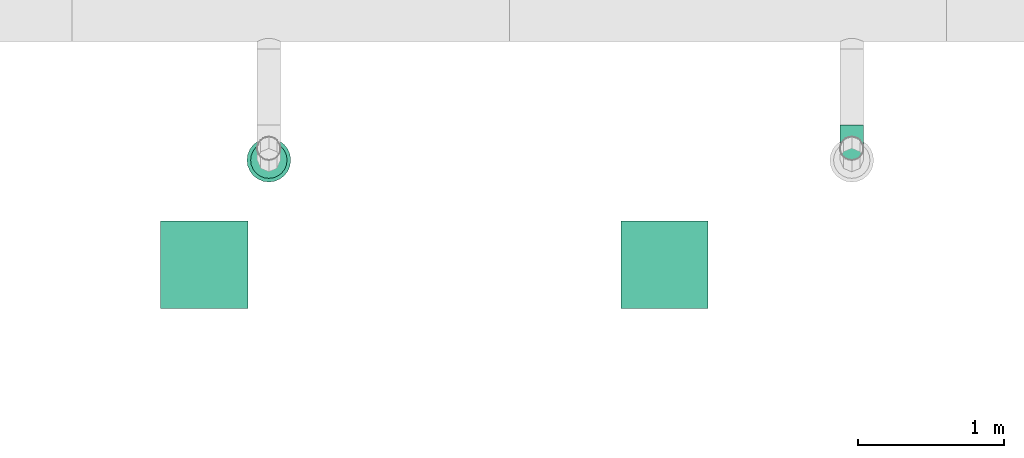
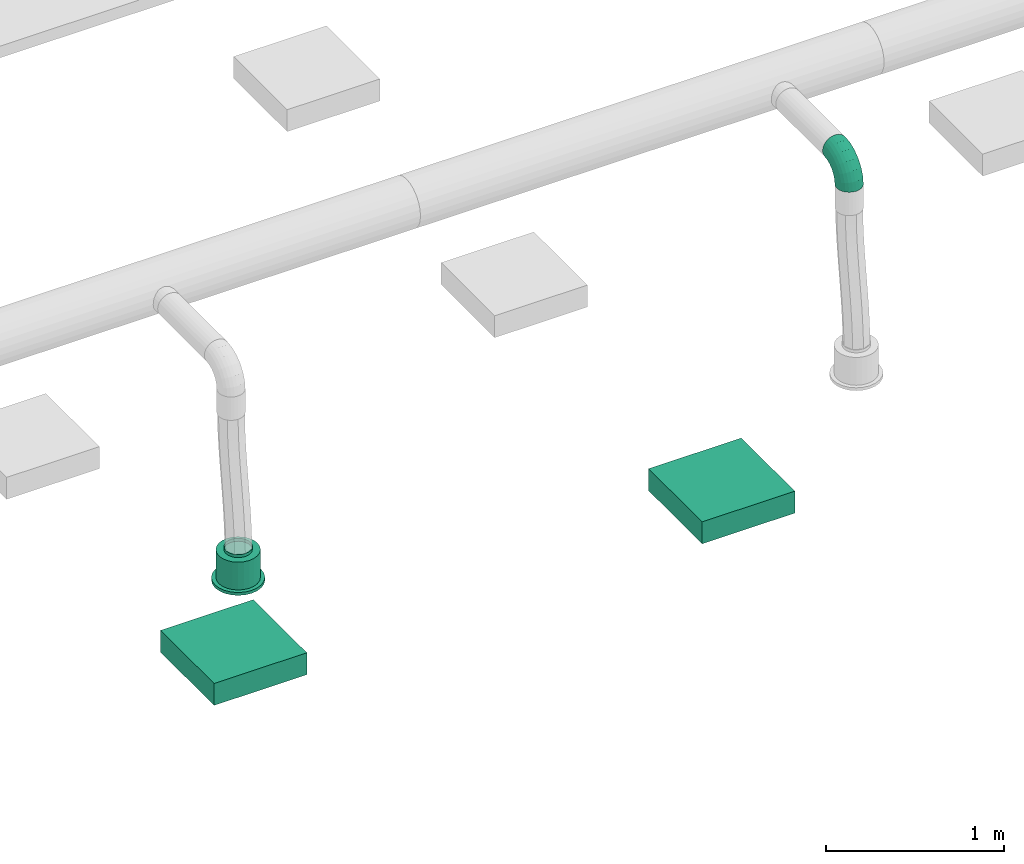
# One storey, part 22 of 374: 2 distribution elements, 1 flow fitting, 1 flow terminal.
"""IFC2X3 building model written with IfcOpenShell, lengths in metres."""

from ifc_helpers import new_model, si_unit, direction, frame, frame_2d, origin, place, context, subcontext, project, spatial, rectangle, extrude, open_shell, surface_model, source, transform, mapped, element, save


model = new_model("IFC2X3")

# Units and contexts
model_context = context("Model", 3, precision=1e-05, world=origin(), true_north=direction((-0.4480736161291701, 0.8939966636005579)))
body_context = subcontext(model_context, "Body", "Model", "MODEL_VIEW")
ifc_project = project(units=[si_unit("LENGTHUNIT", "METRE"), si_unit("AREAUNIT", "SQUARE_METRE"), si_unit("VOLUMEUNIT", "CUBIC_METRE"), si_unit("PLANEANGLEUNIT", "RADIAN"), si_unit("THERMODYNAMICTEMPERATUREUNIT", "KELVIN"), si_unit("MASSUNIT", "GRAM", prefix="KILO"), si_unit("TIMEUNIT", "SECOND")], contexts=[model_context])

# Site, building, storey
site_placement = place(None, origin())
site = spatial("IfcSite", under=ifc_project, at=site_placement, Name="Site 1", CompositionType="ELEMENT")
building_placement = place(site_placement, origin())
building = spatial("IfcBuilding", under=site, at=building_placement, Name="Undefined", CompositionType="ELEMENT")
storey_placement = place(building_placement, origin())
storey = spatial("IfcBuildingStorey", under=building, at=storey_placement, Name="Rez de chauss\x8ee", CompositionType="ELEMENT", Elevation=0.0)

# Flow terminal
shared_shape_1 = source(origin(), body_context, "Body", "SurfaceModel", [
    surface_model("IfcFaceBasedSurfaceModel", [(0.0, 0.0, 0.0), (0.03915785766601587, 0.0, 0.0), (0.03915785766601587, 0.020000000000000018, 0.0), (3.552713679e-15, 0.020000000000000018, 0.0), (0.07698144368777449, 0.0, -0.010134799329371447), (0.07698144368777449, 0.020000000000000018, -0.010134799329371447), (0.11089314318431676, 0.0, -0.02971372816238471), (0.11089314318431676, 0.020000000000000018, -0.02971372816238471), (0.13858192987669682, 0.0, -0.05740251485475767), (0.13858192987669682, 0.020000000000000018, -0.05740251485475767), (0.15816085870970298, 0.0, -0.09131421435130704), (0.15816085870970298, 0.020000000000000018, -0.09131421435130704), (0.16829565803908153, 0.0, -0.12913780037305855), (0.16829565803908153, 0.020000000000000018, -0.12913780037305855), (0.16829565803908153, 0.0, -0.16829565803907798), (0.16829565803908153, 0.020000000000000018, -0.16829565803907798), (0.15816085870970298, 0.0, -0.20611924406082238), (0.15816085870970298, 0.020000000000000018, -0.20611924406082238), (0.13858192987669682, 0.0, -0.24003094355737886), (0.13858192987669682, 0.020000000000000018, -0.24003094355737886), (0.11089314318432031, 0.0, -0.2677197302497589), (0.11089314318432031, 0.020000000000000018, -0.2677197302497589), (0.07698144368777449, 0.0, -0.2872986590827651), (0.07698144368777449, 0.020000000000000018, -0.2872986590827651), (0.039157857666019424, 0.0, -0.29743345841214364), (0.039157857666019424, 0.020000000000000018, -0.29743345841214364), (3.552713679e-15, 0.0, -0.29743345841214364), (3.552713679e-15, 0.020000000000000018, -0.29743345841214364), (-0.03782358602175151, 0.0, -0.2872986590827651), (-0.03782358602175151, 0.020000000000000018, -0.2872986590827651), (-0.07173528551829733, 0.0, -0.2677197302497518), (-0.07173528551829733, 0.020000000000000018, -0.2677197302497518), (-0.0994240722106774, 0.0, -0.24003094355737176), (-0.0994240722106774, 0.020000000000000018, -0.24003094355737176), (-0.11900300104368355, 0.0, -0.2061192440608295), (-0.11900300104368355, 0.020000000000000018, -0.2061192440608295), (-0.1291378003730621, 0.0, -0.16829565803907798), (-0.1291378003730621, 0.020000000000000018, -0.16829565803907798), (-0.1291378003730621, 0.0, -0.12913780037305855), (-0.1291378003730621, 0.020000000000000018, -0.12913780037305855), (-0.11900300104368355, 0.0, -0.09131421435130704), (-0.11900300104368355, 0.020000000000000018, -0.09131421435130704), (-0.0994240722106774, 0.0, -0.05740251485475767), (-0.0994240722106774, 0.020000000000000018, -0.05740251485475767), (-0.07173528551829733, 0.0, -0.029713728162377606), (-0.07173528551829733, 0.020000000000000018, -0.029713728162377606), (-0.03782358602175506, 0.0, -0.010134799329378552), (-0.03782358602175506, 0.020000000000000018, -0.010134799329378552), (0.019578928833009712, 0.0, -0.14871672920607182), (0.019578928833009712, 0.020000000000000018, -0.14871672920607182), (0.003263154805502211, 0.020000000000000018, -0.02478612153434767), (0.035894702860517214, 0.020000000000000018, -0.02478612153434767), (0.035894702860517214, 0.20999999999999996, -0.02478612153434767), (0.003263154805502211, 0.20999999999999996, -0.02478612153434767), (0.06741435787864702, 0.020000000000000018, -0.033231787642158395), (0.06741435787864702, 0.20999999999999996, -0.033231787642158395), (0.0956741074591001, 0.020000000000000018, -0.04954756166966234), (0.0956741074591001, 0.20999999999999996, -0.04954756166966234), (0.11874809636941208, 0.020000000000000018, -0.07262155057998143), (0.11874809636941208, 0.20999999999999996, -0.07262155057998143), (0.13506387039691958, 0.020000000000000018, -0.10088130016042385), (0.13506387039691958, 0.20999999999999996, -0.10088130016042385), (0.1435095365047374, 0.020000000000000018, -0.13240095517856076), (0.1435095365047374, 0.20999999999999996, -0.13240095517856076), (0.1435095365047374, 0.020000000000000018, -0.16503250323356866), (0.1435095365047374, 0.20999999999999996, -0.16503250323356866), (0.13506387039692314, 0.020000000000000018, -0.19655215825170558), (0.13506387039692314, 0.20999999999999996, -0.19655215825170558), (0.11874809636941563, 0.020000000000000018, -0.2248119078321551), (0.11874809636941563, 0.20999999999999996, -0.2248119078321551), (0.09567410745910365, 0.020000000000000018, -0.24788589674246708), (0.09567410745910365, 0.20999999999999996, -0.24788589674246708), (0.06741435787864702, 0.020000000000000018, -0.26420167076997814), (0.06741435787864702, 0.20999999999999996, -0.26420167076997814), (0.035894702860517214, 0.020000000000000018, -0.27264733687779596), (0.035894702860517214, 0.20999999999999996, -0.27264733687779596), (0.0032631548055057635, 0.020000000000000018, -0.27264733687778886), (0.0032631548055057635, 0.20999999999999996, -0.27264733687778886), (-0.028256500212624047, 0.020000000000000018, -0.26420167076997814), (-0.028256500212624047, 0.20999999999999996, -0.26420167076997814), (-0.05651624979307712, 0.020000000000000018, -0.2478858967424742), (-0.05651624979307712, 0.20999999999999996, -0.2478858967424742), (-0.07959023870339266, 0.020000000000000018, -0.2248119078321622), (-0.07959023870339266, 0.20999999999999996, -0.2248119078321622), (-0.09590601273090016, 0.020000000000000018, -0.19655215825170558), (-0.09590601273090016, 0.20999999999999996, -0.19655215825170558), (-0.10435167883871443, 0.020000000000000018, -0.16503250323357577), (-0.10435167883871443, 0.20999999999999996, -0.16503250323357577), (-0.10435167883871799, 0.020000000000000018, -0.13240095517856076), (-0.10435167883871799, 0.20999999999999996, -0.13240095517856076), (-0.09590601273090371, 0.020000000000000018, -0.10088130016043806), (-0.09590601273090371, 0.20999999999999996, -0.10088130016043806), (-0.07959023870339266, 0.020000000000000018, -0.07262155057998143), (-0.07959023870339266, 0.20999999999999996, -0.07262155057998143), (-0.056516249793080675, 0.020000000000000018, -0.04954756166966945), (-0.056516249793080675, 0.20999999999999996, -0.04954756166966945), (-0.028256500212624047, 0.020000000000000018, -0.033231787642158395), (-0.028256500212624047, 0.20999999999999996, -0.033231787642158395), (0.019578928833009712, 0.20999999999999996, -0.14871672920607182), (0.009136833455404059, 0.20999999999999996, -0.06940114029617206), (0.030021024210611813, 0.20999999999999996, -0.06940114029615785), (0.030021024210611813, 0.22999999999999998, -0.06940114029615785), (0.009136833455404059, 0.22999999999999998, -0.06940114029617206), (0.05019360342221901, 0.20999999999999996, -0.07480636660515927), (0.05019360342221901, 0.22999999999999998, -0.07480636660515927), (0.06827984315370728, 0.20999999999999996, -0.08524846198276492), (0.06827984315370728, 0.22999999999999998, -0.08524846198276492), (0.0830471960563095, 0.20999999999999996, -0.10001581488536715), (0.0830471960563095, 0.22999999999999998, -0.10001581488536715), (0.0934892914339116, 0.20999999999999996, -0.11810205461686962), (0.0934892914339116, 0.22999999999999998, -0.11810205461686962), (0.09889451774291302, 0.20999999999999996, -0.13827463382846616), (0.09889451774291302, 0.22999999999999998, -0.13827463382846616), (0.09889451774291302, 0.20999999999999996, -0.15915882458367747), (0.09889451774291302, 0.22999999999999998, -0.15915882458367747), (0.09348929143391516, 0.20999999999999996, -0.179331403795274), (0.09348929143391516, 0.22999999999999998, -0.179331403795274), (0.0830471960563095, 0.20999999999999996, -0.19741764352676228), (0.0830471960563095, 0.22999999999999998, -0.19741764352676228), (0.06827984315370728, 0.20999999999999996, -0.2121849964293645), (0.06827984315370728, 0.22999999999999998, -0.2121849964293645), (0.05019360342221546, 0.20999999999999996, -0.22262709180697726), (0.05019360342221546, 0.22999999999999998, -0.22262709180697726), (0.030021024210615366, 0.20999999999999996, -0.22803231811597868), (0.030021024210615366, 0.22999999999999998, -0.22803231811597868), (0.009136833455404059, 0.20999999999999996, -0.22803231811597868), (0.009136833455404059, 0.22999999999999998, -0.22803231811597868), (-0.011035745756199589, 0.20999999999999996, -0.22262709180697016), (-0.011035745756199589, 0.22999999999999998, -0.22262709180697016), (-0.0291219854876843, 0.20999999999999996, -0.2121849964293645), (-0.0291219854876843, 0.22999999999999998, -0.2121849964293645), (-0.043889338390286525, 0.20999999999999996, -0.19741764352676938), (-0.043889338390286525, 0.22999999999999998, -0.19741764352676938), (-0.05433143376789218, 0.20999999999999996, -0.17933140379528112), (-0.05433143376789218, 0.22999999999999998, -0.17933140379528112), (-0.05973666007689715, 0.20999999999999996, -0.15915882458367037), (-0.05973666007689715, 0.22999999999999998, -0.15915882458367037), (-0.0597366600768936, 0.20999999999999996, -0.13827463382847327), (-0.0597366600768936, 0.22999999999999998, -0.13827463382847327), (-0.05433143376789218, 0.20999999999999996, -0.11810205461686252), (-0.05433143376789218, 0.22999999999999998, -0.11810205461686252), (-0.043889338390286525, 0.20999999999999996, -0.10001581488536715), (-0.043889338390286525, 0.22999999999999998, -0.10001581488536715), (-0.02912198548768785, 0.20999999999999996, -0.08524846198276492), (-0.02912198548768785, 0.22999999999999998, -0.08524846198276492), (-0.011035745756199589, 0.20999999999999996, -0.07480636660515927), (-0.011035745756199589, 0.22999999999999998, -0.07480636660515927)], [open_shell([[[0, 1, 2, 3]], [[1, 4, 5, 2]], [[4, 6, 7, 5]], [[6, 8, 9, 7]], [[8, 10, 11, 9]], [[10, 12, 13, 11]], [[12, 14, 15, 13]], [[14, 16, 17, 15]], [[16, 18, 19, 17]], [[18, 20, 21, 19]], [[20, 22, 23, 21]], [[22, 24, 25, 23]], [[24, 26, 27, 25]], [[26, 28, 29, 27]], [[28, 30, 31, 29]], [[30, 32, 33, 31]], [[32, 34, 35, 33]], [[34, 36, 37, 35]], [[36, 38, 39, 37]], [[38, 40, 41, 39]], [[40, 42, 43, 41]], [[42, 44, 45, 43]], [[44, 46, 47, 45]], [[46, 0, 3, 47]], [[48, 1, 0]], [[48, 4, 1]], [[48, 6, 4]], [[48, 8, 6]], [[48, 10, 8]], [[48, 12, 10]], [[48, 14, 12]], [[48, 16, 14]], [[48, 18, 16]], [[48, 20, 18]], [[48, 22, 20]], [[48, 24, 22]], [[48, 26, 24]], [[48, 28, 26]], [[48, 30, 28]], [[48, 32, 30]], [[48, 34, 32]], [[48, 36, 34]], [[48, 38, 36]], [[48, 40, 38]], [[48, 42, 40]], [[48, 44, 42]], [[48, 46, 44]], [[48, 0, 46]], [[49, 47, 3]], [[49, 45, 47]], [[49, 43, 45]], [[49, 41, 43]], [[49, 39, 41]], [[49, 37, 39]], [[49, 35, 37]], [[49, 33, 35]], [[49, 31, 33]], [[49, 29, 31]], [[49, 27, 29]], [[49, 25, 27]], [[49, 23, 25]], [[49, 21, 23]], [[49, 19, 21]], [[49, 17, 19]], [[49, 15, 17]], [[49, 13, 15]], [[49, 11, 13]], [[49, 9, 11]], [[49, 7, 9]], [[49, 5, 7]], [[49, 2, 5]], [[49, 3, 2]], [[50, 51, 52, 53]], [[51, 54, 55, 52]], [[54, 56, 57, 55]], [[56, 58, 59, 57]], [[58, 60, 61, 59]], [[60, 62, 63, 61]], [[62, 64, 65, 63]], [[64, 66, 67, 65]], [[66, 68, 69, 67]], [[68, 70, 71, 69]], [[70, 72, 73, 71]], [[72, 74, 75, 73]], [[74, 76, 77, 75]], [[76, 78, 79, 77]], [[78, 80, 81, 79]], [[80, 82, 83, 81]], [[82, 84, 85, 83]], [[84, 86, 87, 85]], [[86, 88, 89, 87]], [[88, 90, 91, 89]], [[90, 92, 93, 91]], [[92, 94, 95, 93]], [[94, 96, 97, 95]], [[96, 50, 53, 97]], [[49, 51, 50]], [[49, 54, 51]], [[49, 56, 54]], [[49, 58, 56]], [[49, 60, 58]], [[49, 62, 60]], [[49, 64, 62]], [[49, 66, 64]], [[49, 68, 66]], [[49, 70, 68]], [[49, 72, 70]], [[49, 74, 72]], [[49, 76, 74]], [[49, 78, 76]], [[49, 80, 78]], [[49, 82, 80]], [[49, 84, 82]], [[49, 86, 84]], [[49, 88, 86]], [[49, 90, 88]], [[49, 92, 90]], [[49, 94, 92]], [[49, 96, 94]], [[49, 50, 96]], [[98, 97, 53]], [[98, 95, 97]], [[98, 93, 95]], [[98, 91, 93]], [[98, 89, 91]], [[98, 87, 89]], [[98, 85, 87]], [[98, 83, 85]], [[98, 81, 83]], [[98, 79, 81]], [[98, 77, 79]], [[98, 75, 77]], [[98, 73, 75]], [[98, 71, 73]], [[98, 69, 71]], [[98, 67, 69]], [[98, 65, 67]], [[98, 63, 65]], [[98, 61, 63]], [[98, 59, 61]], [[98, 57, 59]], [[98, 55, 57]], [[98, 52, 55]], [[98, 53, 52]], [[99, 100, 101, 102]], [[100, 103, 104, 101]], [[103, 105, 106, 104]], [[105, 107, 108, 106]], [[107, 109, 110, 108]], [[109, 111, 112, 110]], [[111, 113, 114, 112]], [[113, 115, 116, 114]], [[115, 117, 118, 116]], [[117, 119, 120, 118]], [[119, 121, 122, 120]], [[121, 123, 124, 122]], [[123, 125, 126, 124]], [[125, 127, 128, 126]], [[127, 129, 130, 128]], [[129, 131, 132, 130]], [[131, 133, 134, 132]], [[133, 135, 136, 134]], [[135, 137, 138, 136]], [[137, 139, 140, 138]], [[139, 141, 142, 140]], [[141, 143, 144, 142]], [[143, 145, 146, 144]], [[145, 99, 102, 146]]])]),
])
flow_terminal_placement = place(storey_placement, origin())
element("IfcFlowTerminal", 1, at=flow_terminal_placement, inside=storey, Name="Air diffuseur - bouche", ObjectType="Air diffuseur - bouche", context=body_context, shape_type="MappedRepresentation", body=[
    mapped(shared_shape_1, transform((14.290000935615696, 2.0299997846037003, 2.38), x_axis=(-0.9914448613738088, -0.13052619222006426, 0.0), y_axis=(0.0, 0.0, 1.0), z_axis=(-0.13052619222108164, 0.9914448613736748, 0.0))),
])

# Flow fitting
shared_shape_2 = source(origin(), body_context, "Body", "SurfaceModel", [
    surface_model("IfcFaceBasedSurfaceModel", [(0.06265257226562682, -8.8817842e-16, 0.0), (0.062296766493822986, 0.02088115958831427, -7.105427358e-15), (0.0003558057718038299, 0.020881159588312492, 7.105427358e-15), (0.0, 0.0, 0.0), (-0.059474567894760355, 0.022956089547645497, -0.015896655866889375), (-0.06051773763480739, 0.002098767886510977, -0.01607928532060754), (-0.11311701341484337, 0.02696454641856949, -0.04660663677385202), (-0.11477645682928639, 0.006153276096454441, -0.04714207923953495), (-0.15691588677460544, 0.0326333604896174, -0.09003710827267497), (-0.15907851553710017, 0.01188721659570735, -0.09107150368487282), (-0.18788636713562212, 0.03957621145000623, -0.14322835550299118), (-0.1904048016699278, 0.01890983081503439, -0.14487384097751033), (-0.2039178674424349, 0.04731995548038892, -0.20255548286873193), (-0.20662048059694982, 0.026742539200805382, -0.20488255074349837), (0.061253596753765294, 0.04103889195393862, -0.0053597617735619), (0.0013989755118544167, 0.04103889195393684, -0.005359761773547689), (-0.05641614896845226, 0.04304393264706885, -0.02072097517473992), (-0.10825177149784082, 0.04691737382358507, -0.050396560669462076), (-0.15057538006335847, 0.05239524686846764, -0.09236417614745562), (-0.18050269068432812, 0.05910424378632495, -0.14376379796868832), (-0.19599420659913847, 0.06658715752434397, -0.20109262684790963), (0.05959415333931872, 0.05909948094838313, -0.01571402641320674), (0.003058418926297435, 0.05909948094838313, -0.01571402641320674), (-0.05155090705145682, 0.06099334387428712, -0.030223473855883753), (-0.10051228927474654, 0.06465200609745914, -0.058253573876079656), (-0.1404890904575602, 0.0698261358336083, -0.09789412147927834), (-0.16875695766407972, 0.0761631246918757, -0.14644367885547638), (-0.18338948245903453, 0.08323111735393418, -0.2005936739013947), (0.057431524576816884, 0.07383212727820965, -0.030357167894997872), (0.005221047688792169, 0.07383212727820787, -0.03035716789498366), (-0.0452104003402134, 0.07558110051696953, -0.04375657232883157), (-0.09042599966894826, 0.07895985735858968, -0.06964223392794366), (-0.12734438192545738, 0.08373814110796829, -0.10625008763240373), (-0.15344962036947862, 0.08959031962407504, -0.15108536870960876), (-0.16696268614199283, 0.0961175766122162, -0.20109262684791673), (0.054913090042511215, 0.0842328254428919, -0.048291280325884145), (0.007739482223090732, 0.08423282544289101, -0.04829128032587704), (-0.037826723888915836, 0.08581307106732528, -0.06039801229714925), (-0.07868026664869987, 0.08886587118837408, -0.08378642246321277), (-0.11203704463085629, 0.09318318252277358, -0.11686262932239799), (-0.13562384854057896, 0.09847078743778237, -0.1573725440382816), (-0.14783327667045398, 0.10436834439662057, -0.20255548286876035), (0.05221047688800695, 0.0895927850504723, -0.06829418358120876), (0.010442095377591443, 0.08959278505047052, -0.06829418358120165), (-0.029903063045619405, 0.09099196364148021, -0.07901370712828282), (-0.06607554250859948, 0.09369496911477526, -0.0997222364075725), (-0.0956102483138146, 0.0975175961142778, -0.12900851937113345), (-0.11649443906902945, 0.10219933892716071, -0.16487674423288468), (-0.12730489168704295, 0.1074211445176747, -0.2048825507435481), (0.04950786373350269, 0.08954673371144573, -0.08900271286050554), (0.013144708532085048, 0.08954673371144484, -0.08900271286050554), (-0.02197940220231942, 0.09076484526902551, -0.09833502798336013), (-0.05347081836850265, 0.09311805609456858, -0.11636367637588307), (-0.0791834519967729, 0.09644599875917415, -0.14186003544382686), (-0.09736502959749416, 0.10052187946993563, -0.17308657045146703), (-0.10677650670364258, 0.1050679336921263, -0.20791524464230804), (0.04698942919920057, 0.08409780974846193, -0.10900561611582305), (0.015663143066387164, 0.08409780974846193, -0.10900561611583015), (-0.014595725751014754, 0.08514719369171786, -0.11704525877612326), (-0.0417250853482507, 0.0871744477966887, -0.13257665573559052), (-0.06387611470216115, 0.09004141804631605, -0.15454136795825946), (-0.07953925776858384, 0.09355272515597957, -0.1814425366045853), (-0.08764709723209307, 0.09746907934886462, -0.21144689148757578), (0.04482680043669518, 0.0736173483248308, -0.12693972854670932), (0.017825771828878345, 0.0736173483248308, -0.12693972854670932), (-0.008255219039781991, 0.07452184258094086, -0.13386932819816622), (-0.03163879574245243, 0.0762691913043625, -0.14725628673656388), (-0.050731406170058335, 0.07874031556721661, -0.1661883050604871), (-0.06423192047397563, 0.08176681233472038, -0.18937519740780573), (-0.07122030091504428, 0.08514243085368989, -0.21523681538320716), (0.04316735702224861, 0.058819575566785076, -0.14158287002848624), (0.019485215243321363, 0.058819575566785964, -0.14158287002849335), (-0.0033899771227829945, 0.05961289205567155, -0.14766070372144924), (-0.02389931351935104, 0.06114546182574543, -0.15940217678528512), (-0.04064511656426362, 0.06331284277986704, -0.17600712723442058), (-0.052486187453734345, 0.06596733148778, -0.19634395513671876), (-0.05861557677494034, 0.06892802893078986, -0.2190267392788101), (0.04212418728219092, 0.040712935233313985, -0.15193713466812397), (0.020528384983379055, 0.040712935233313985, -0.15193713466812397), (-0.0003315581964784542, 0.041436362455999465, -0.15747952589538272), (-0.019034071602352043, 0.04283391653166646, -0.16818660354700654), (-0.03430460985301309, 0.04481035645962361, -0.1833286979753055), (-0.04510251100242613, 0.047230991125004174, -0.20187390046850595), (-0.05069191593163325, 0.04993085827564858, -0.22255838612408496), (0.04176838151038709, 0.02053136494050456, -0.15729689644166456), (0.020884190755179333, 0.02053136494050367, -0.15729689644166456), (0.0007116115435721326, 0.021230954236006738, -0.16265665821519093), (-0.017374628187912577, 0.022582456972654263, -0.17301092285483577), (-0.03214198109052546, 0.024493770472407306, -0.1876540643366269), (-0.042584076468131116, 0.026834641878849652, -0.20558817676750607), (-0.04798930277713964, 0.02944554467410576, -0.22559108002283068), (0.04212418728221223, -0.000349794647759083, -0.15729689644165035), (0.020528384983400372, -0.000349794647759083, -0.15729689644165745), (-0.0003315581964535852, 0.00037363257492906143, -0.1628392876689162), (-0.019034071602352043, 0.0017711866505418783, -0.17354636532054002), (-0.03430460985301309, 0.0037476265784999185, -0.18868845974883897), (-0.04510251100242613, 0.00616826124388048, -0.20723366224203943), (-0.05069191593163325, 0.008868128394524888, -0.22791814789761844), (0.04316735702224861, -0.020507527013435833, -0.15193713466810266), (0.019485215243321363, -0.020507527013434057, -0.15193713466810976), (-0.0033899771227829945, -0.019714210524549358, -0.15801496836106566), (-0.02389931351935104, -0.01818164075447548, -0.16975644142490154), (-0.04064511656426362, -0.01601425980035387, -0.186361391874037), (-0.052486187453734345, -0.013359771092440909, -0.20669821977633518), (-0.05861557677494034, -0.010399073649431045, -0.22938100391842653), (0.04482680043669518, -0.03856811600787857, -0.1415828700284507), (0.017825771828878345, -0.03856811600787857, -0.1415828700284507), (-0.008255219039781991, -0.03766362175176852, -0.1485124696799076), (-0.03163879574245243, -0.03591627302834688, -0.16189942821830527), (-0.050731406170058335, -0.03344514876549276, -0.1808314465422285), (-0.06423192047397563, -0.030418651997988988, -0.20401833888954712), (-0.07122030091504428, -0.027043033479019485, -0.22987995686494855), (0.04698942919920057, -0.05330076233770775, -0.12693972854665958), (0.015663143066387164, -0.05330076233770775, -0.12693972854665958), (-0.014595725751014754, -0.05225137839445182, -0.1349793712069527), (-0.0417250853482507, -0.05022412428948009, -0.15051076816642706), (-0.06387611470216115, -0.047357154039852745, -0.172475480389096), (-0.07953925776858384, -0.043845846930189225, -0.19937664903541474), (-0.08764709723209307, -0.03992949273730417, -0.2293810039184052), (0.04950786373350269, -0.06370146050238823, -0.10900561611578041), (0.013144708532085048, -0.06370146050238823, -0.10900561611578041), (-0.02197940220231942, -0.06248334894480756, -0.11833793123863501), (-0.05347081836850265, -0.06013013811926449, -0.13636657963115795), (-0.0791834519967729, -0.05680219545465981, -0.16186293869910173), (-0.09736502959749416, -0.05272631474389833, -0.1930894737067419), (-0.10677650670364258, -0.04818026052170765, -0.2279181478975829), (0.05221047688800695, -0.06906142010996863, -0.08900271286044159), (0.010442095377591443, -0.06906142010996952, -0.08900271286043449), (-0.029903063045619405, -0.06766224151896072, -0.09972223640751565), (-0.06607554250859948, -0.06495923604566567, -0.12043076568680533), (-0.0956102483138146, -0.06113660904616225, -0.14971704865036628), (-0.11649443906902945, -0.05645486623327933, -0.1855852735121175), (-0.12730489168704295, -0.05123306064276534, -0.22559108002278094), (0.054913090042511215, -0.06901536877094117, -0.06829418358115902), (0.007739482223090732, -0.06901536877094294, -0.06829418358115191), (-0.037826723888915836, -0.06743512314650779, -0.08040091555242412), (-0.07868026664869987, -0.06438232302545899, -0.10378932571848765), (-0.11203704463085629, -0.06006501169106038, -0.13686553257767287), (-0.13562384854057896, -0.0547774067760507, -0.17737544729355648), (-0.14783327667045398, -0.04887984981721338, -0.22255838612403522), (0.057431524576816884, -0.06356644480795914, -0.0482912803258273), (0.005221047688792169, -0.06356644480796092, -0.04829128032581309), (-0.0452104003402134, -0.061817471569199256, -0.0616906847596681), (-0.09042599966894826, -0.05843871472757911, -0.0875763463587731), (-0.12734438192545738, -0.05366043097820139, -0.12418420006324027), (-0.15344962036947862, -0.04780825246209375, -0.1690194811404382), (-0.16696268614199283, -0.041280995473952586, -0.21902673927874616), (0.05959415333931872, -0.05308598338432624, -0.030357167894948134), (0.003058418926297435, -0.05308598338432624, -0.030357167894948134), (-0.05155090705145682, -0.05119212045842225, -0.04486661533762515), (-0.10051228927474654, -0.04753345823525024, -0.07289671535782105), (-0.1404890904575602, -0.04235932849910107, -0.11253726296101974), (-0.16875695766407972, -0.03602233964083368, -0.16108682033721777), (-0.18338948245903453, -0.02895434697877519, -0.2152368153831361), (0.061253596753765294, -0.03828821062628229, -0.015714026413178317), (0.0013989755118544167, -0.03828821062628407, -0.015714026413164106), (-0.05641614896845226, -0.03628316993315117, -0.031075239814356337), (-0.10825177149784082, -0.03240972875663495, -0.06075082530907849), (-0.15057538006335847, -0.026931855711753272, -0.10271844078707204), (-0.18050269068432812, -0.02022285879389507, -0.15411806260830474), (-0.19599420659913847, -0.012739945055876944, -0.21144689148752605), (0.062296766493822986, -0.020181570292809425, -0.005359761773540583), (0.0003558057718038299, -0.020181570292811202, -0.0053597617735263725), (-0.059474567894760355, -0.018106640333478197, -0.021256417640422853), (-0.11311701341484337, -0.014098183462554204, -0.051966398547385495), (-0.15691588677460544, -0.00842936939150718, -0.09539687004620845), (-0.18788636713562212, -0.0014865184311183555, -0.14858811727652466), (-0.2039178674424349, 0.006257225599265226, -0.2079152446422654)], [open_shell([[[0, 1, 2, 3]], [[3, 2, 4, 5]], [[5, 4, 6, 7]], [[7, 6, 8, 9]], [[9, 8, 10, 11]], [[11, 10, 12, 13]], [[1, 14, 15, 2]], [[2, 15, 16, 4]], [[4, 16, 17, 6]], [[6, 17, 18, 8]], [[8, 18, 19, 10]], [[10, 19, 20, 12]], [[14, 21, 22, 15]], [[15, 22, 23, 16]], [[16, 23, 24, 17]], [[17, 24, 25, 18]], [[18, 25, 26, 19]], [[19, 26, 27, 20]], [[21, 28, 29, 22]], [[22, 29, 30, 23]], [[23, 30, 31, 24]], [[24, 31, 32, 25]], [[25, 32, 33, 26]], [[26, 33, 34, 27]], [[28, 35, 36, 29]], [[29, 36, 37, 30]], [[30, 37, 38, 31]], [[31, 38, 39, 32]], [[32, 39, 40, 33]], [[33, 40, 41, 34]], [[35, 42, 43, 36]], [[36, 43, 44, 37]], [[37, 44, 45, 38]], [[38, 45, 46, 39]], [[39, 46, 47, 40]], [[40, 47, 48, 41]], [[42, 49, 50, 43]], [[43, 50, 51, 44]], [[44, 51, 52, 45]], [[45, 52, 53, 46]], [[46, 53, 54, 47]], [[47, 54, 55, 48]], [[49, 56, 57, 50]], [[50, 57, 58, 51]], [[51, 58, 59, 52]], [[52, 59, 60, 53]], [[53, 60, 61, 54]], [[54, 61, 62, 55]], [[56, 63, 64, 57]], [[57, 64, 65, 58]], [[58, 65, 66, 59]], [[59, 66, 67, 60]], [[60, 67, 68, 61]], [[61, 68, 69, 62]], [[63, 70, 71, 64]], [[64, 71, 72, 65]], [[65, 72, 73, 66]], [[66, 73, 74, 67]], [[67, 74, 75, 68]], [[68, 75, 76, 69]], [[70, 77, 78, 71]], [[71, 78, 79, 72]], [[72, 79, 80, 73]], [[73, 80, 81, 74]], [[74, 81, 82, 75]], [[75, 82, 83, 76]], [[77, 84, 85, 78]], [[78, 85, 86, 79]], [[79, 86, 87, 80]], [[80, 87, 88, 81]], [[81, 88, 89, 82]], [[82, 89, 90, 83]], [[84, 91, 92, 85]], [[85, 92, 93, 86]], [[86, 93, 94, 87]], [[87, 94, 95, 88]], [[88, 95, 96, 89]], [[89, 96, 97, 90]], [[91, 98, 99, 92]], [[92, 99, 100, 93]], [[93, 100, 101, 94]], [[94, 101, 102, 95]], [[95, 102, 103, 96]], [[96, 103, 104, 97]], [[98, 105, 106, 99]], [[99, 106, 107, 100]], [[100, 107, 108, 101]], [[101, 108, 109, 102]], [[102, 109, 110, 103]], [[103, 110, 111, 104]], [[105, 112, 113, 106]], [[106, 113, 114, 107]], [[107, 114, 115, 108]], [[108, 115, 116, 109]], [[109, 116, 117, 110]], [[110, 117, 118, 111]], [[112, 119, 120, 113]], [[113, 120, 121, 114]], [[114, 121, 122, 115]], [[115, 122, 123, 116]], [[116, 123, 124, 117]], [[117, 124, 125, 118]], [[119, 126, 127, 120]], [[120, 127, 128, 121]], [[121, 128, 129, 122]], [[122, 129, 130, 123]], [[123, 130, 131, 124]], [[124, 131, 132, 125]], [[126, 133, 134, 127]], [[127, 134, 135, 128]], [[128, 135, 136, 129]], [[129, 136, 137, 130]], [[130, 137, 138, 131]], [[131, 138, 139, 132]], [[133, 140, 141, 134]], [[134, 141, 142, 135]], [[135, 142, 143, 136]], [[136, 143, 144, 137]], [[137, 144, 145, 138]], [[138, 145, 146, 139]], [[140, 147, 148, 141]], [[141, 148, 149, 142]], [[142, 149, 150, 143]], [[143, 150, 151, 144]], [[144, 151, 152, 145]], [[145, 152, 153, 146]], [[147, 154, 155, 148]], [[148, 155, 156, 149]], [[149, 156, 157, 150]], [[150, 157, 158, 151]], [[151, 158, 159, 152]], [[152, 159, 160, 153]], [[154, 161, 162, 155]], [[155, 162, 163, 156]], [[156, 163, 164, 157]], [[157, 164, 165, 158]], [[158, 165, 166, 159]], [[159, 166, 167, 160]], [[161, 0, 3, 162]], [[162, 3, 5, 163]], [[163, 5, 7, 164]], [[164, 7, 9, 165]], [[165, 9, 11, 166]], [[166, 11, 13, 167]]])]),
])
flow_fitting_placement = place(storey_placement, origin())
element("IfcFlowFitting", 2, at=flow_fitting_placement, inside=storey, Name="Coude", ObjectType="Coude", context=body_context, shape_type="MappedRepresentation", body=[
    mapped(shared_shape_2, transform((18.290000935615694, 1.8881775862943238, 3.702116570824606), x_axis=(9.56658874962e-13, -0.13052619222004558, -0.9914448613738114), y_axis=(0.9915887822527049, 0.12832103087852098, -0.01689378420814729), z_axis=(0.12942830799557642, -0.983105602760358, 0.1294283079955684))),
])

# Distribution elements
distribution_element_1_placement = place(storey_placement, origin())
element("IfcDistributionElement", 3, at=distribution_element_1_placement, inside=storey, Name="Decken-Rechteckleuchte mit Rahmen AP", ObjectType="Decken-Rechteckleuchte mit Rahmen AP", context=body_context, shape_type="SweptSolid", body=[
    extrude(rectangle(XDim=0.6000000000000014, YDim=0.6000000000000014, at=frame_2d((3.552713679e-15, 0.0), x_axis=(0.0, 1.0))), frame((17.004756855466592, 1.1625, 2.5500000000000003), z_axis=(0.0, 0.0, -1.0), x_axis=(1.0, 0.0, 0.0)), (0.0, 0.0, 1.0), 0.15),
])
distribution_element_2_placement = place(storey_placement, origin())
element("IfcDistributionElement", 4, at=distribution_element_2_placement, inside=storey, Name="Decken-Rechteckleuchte mit Rahmen AP", ObjectType="Decken-Rechteckleuchte mit Rahmen AP", context=body_context, shape_type="SweptSolid", body=[
    extrude(rectangle(XDim=0.6000000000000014, YDim=0.6000000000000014, at=frame_2d((3.552713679e-15, 0.0), x_axis=(0.0, 1.0))), frame((13.846914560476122, 1.1625, 2.5500000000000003), z_axis=(0.0, 0.0, -1.0), x_axis=(1.0, 0.0, 0.0)), (0.0, 0.0, 1.0), 0.15),
])

save(model, "model.ifc")
